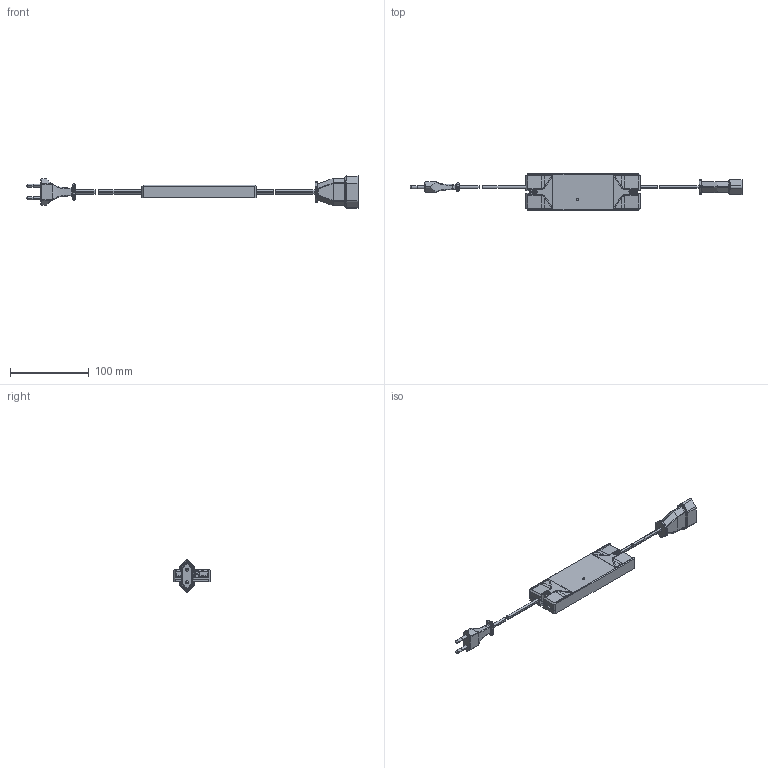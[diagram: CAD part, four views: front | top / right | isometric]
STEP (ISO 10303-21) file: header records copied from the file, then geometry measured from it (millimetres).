
FILE_DESCRIPTION (( 'STEP AP203' ), '1' );
FILE_NAME ('Smartempfänger_230VAC_24.STEP', '2024-12-02T09:29:20', ( '' ), ( '' ), 'SwSTEP 2.0', 'SolidWorks 2023', '' );
FILE_SCHEMA (( 'CONFIG_CONTROL_DESIGN' ));
Length unit declared in the file: millimetre
Products named in the file (6): 3920701_Pr1936_Leitung H05VV H2-F_2x0,75_Euroflachkupplung_Leitungsquerschnitt 5,4x3,4; Smartempfänger_230VAC_24; Euroflachstecker_DAM_L=100mm - Ltg.5,4x3,4; 2588501_25.885.01 - schwarz; 3110401_ohne Deckel; Blechschraube_3,0x10
Assembly tree (7 placements, depth 2):
  Smartempfänger_230VAC_24
    3110401_ohne Deckel
    Euroflachstecker_DAM_L=100mm - Ltg.5,4x3,4
    3920701_Pr1936_Leitung H05VV H2-F_2x0,75_Euroflachkupplung_Leitungsquerschnitt 5,4x3,4
    2588501_25.885.01 - schwarz  x2
    Blechschraube_3,0x10  x2
Bounding box: 421 x 46.5 x 40.66 mm (x, y, z)
Volume: 111138.3 mm3; surface area: 54616.5 mm2
Topology: 10 solids, 10 shells, 1419 faces, 3773 edges, 2387 vertices
Faces by surface type: plane 978, cylinder 282, bspline 58, sphere 43, torus 42, cone 16
Entity records: 36094 total; most frequent: CARTESIAN_POINT 9055, ORIENTED_EDGE 5648, DIRECTION 5266, EDGE_CURVE 2824, VECTOR 2102, LINE 2102, VERTEX_POINT 1789, AXIS2_PLACEMENT_3D 1582
